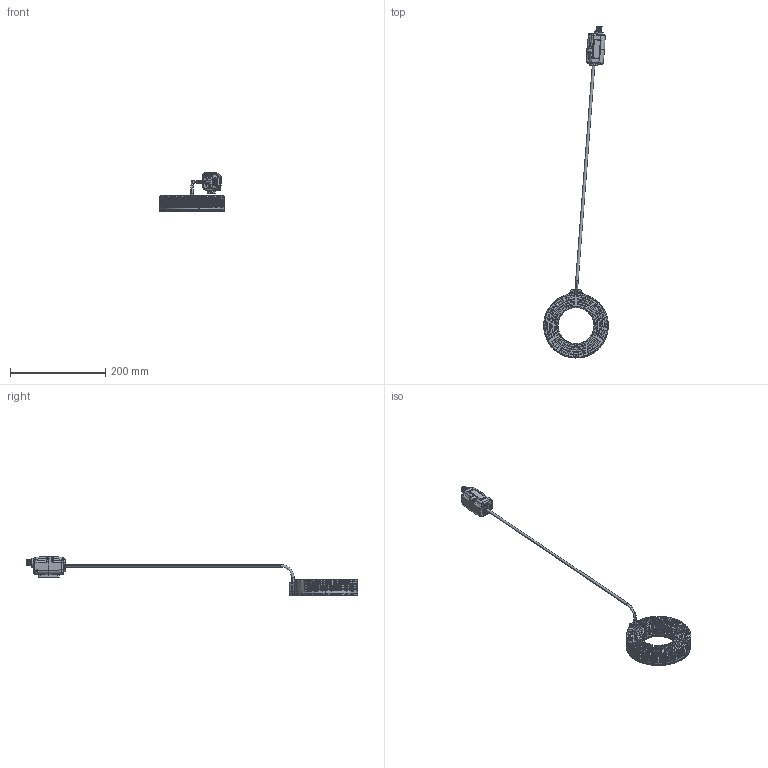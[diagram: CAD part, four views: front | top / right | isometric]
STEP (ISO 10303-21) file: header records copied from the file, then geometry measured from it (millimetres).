
FILE_DESCRIPTION (( 'STEP AP214' ), '1' );
FILE_NAME ('M-HPRING-xxx-UN-DT.STEP', '2024-09-11T12:47:28', ( '' ), ( '' ), 'SwSTEP 2.0', 'SolidWorks 2021', '' );
FILE_SCHEMA (( 'AUTOMOTIVE_DESIGN' ));
Length unit declared in the file: millimetre
Products named in the file (6): M-HPRING-xxx-UN-DT; PSU - Customer CAD; AC-MHPRING-xx; M2-countersunk-10mm; Cable
Assembly tree (7 placements, depth 2):
  M-HPRING-xxx-UN-DT
    M-HPRING-xxx-UN-DT
    PSU - Customer CAD
    Cable
    AC-MHPRING-xx
    M2-countersunk-10mm  x3
Bounding box: 136 x 698.13 x 81.03 mm (x, y, z)
Volume: 323192 mm3; surface area: 134277.1 mm2
Topology: 7 solids, 7 shells, 2759 faces, 6826 edges, 4211 vertices
Faces by surface type: cylinder 1030, plane 851, bspline 659, cone 193, torus 26
Entity records: 98779 total; most frequent: CARTESIAN_POINT 37221, ORIENTED_EDGE 13436, DIRECTION 12424, EDGE_CURVE 6718, AXIS2_PLACEMENT_3D 4782, VERTEX_POINT 4167, EDGE_LOOP 2899, VECTOR 2860
